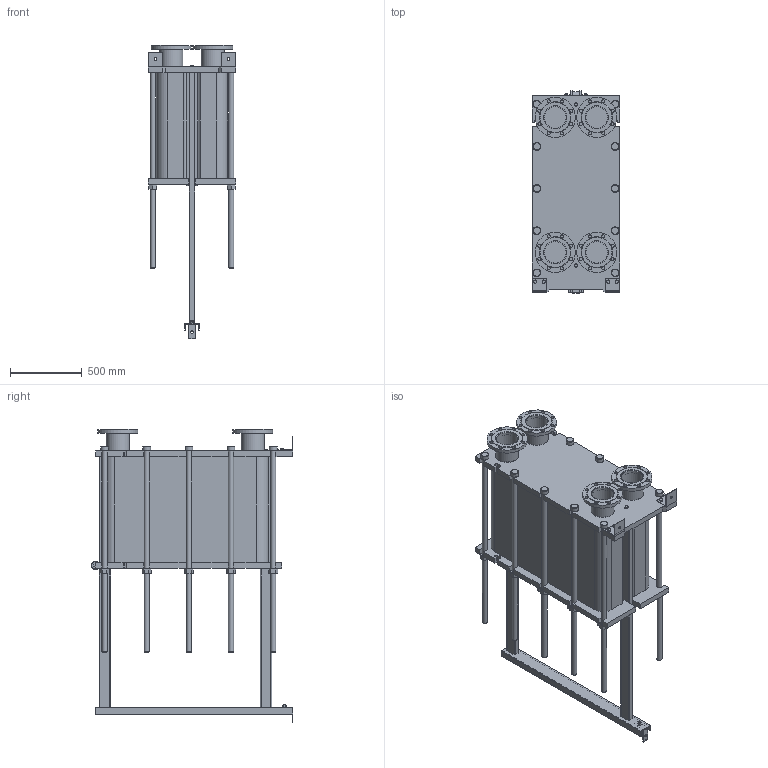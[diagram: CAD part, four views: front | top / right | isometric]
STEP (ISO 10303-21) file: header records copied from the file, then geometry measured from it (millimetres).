
FILE_DESCRIPTION(/* description */ (''),/* implementation_level */ '2;1');
FILE_NAME(/* name */ 'C:\Users\zhuro\Desktop\ENCO\TO\ЭН-041\ЭН-0,5-041-214-1.stp',/* time_stamp */ '2022-06-06T11:07:04+03:00',/* author */ ('zhuro'),/* organization */ (''),/* preprocessor_version */ 'ST-DEVELOPER v18.1',/* originating_system */ 'Autodesk Inventor 2022',/* authorisation */ '');
FILE_SCHEMA (('AUTOMOTIVE_DESIGN { 1 0 10303 214 3 1 1 }'));
Length unit declared in the file: millimetre
Products named in the file (1): ЭН-0,5-041-214-1
Bounding box: 610 x 1406.5 x 2045 mm (x, y, z)
Volume: 503731666.5 mm3; surface area: 11538117.6 mm2
Topology: 52 solids, 52 shells, 711 faces, 1696 edges, 1094 vertices
Faces by surface type: plane 487, cylinder 177, cone 41, torus 6
Full cylindrical faces by diameter (mm): 8 x4, 10 x2, 16 x8, 18 x3, 22 x32, 36 x24, 50 x1, 54 x10, 60 x12, 151 x4, 161 x8, 280 x4
Entity records: 22667 total; most frequent: CARTESIAN_POINT 5230, DIRECTION 3644, ORIENTED_EDGE 3392, EDGE_CURVE 1696, AXIS2_PLACEMENT_3D 1272, LINE 1100, VECTOR 1100, VERTEX_POINT 1094
